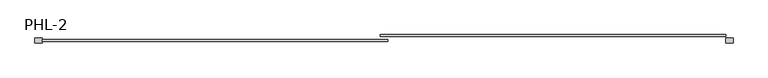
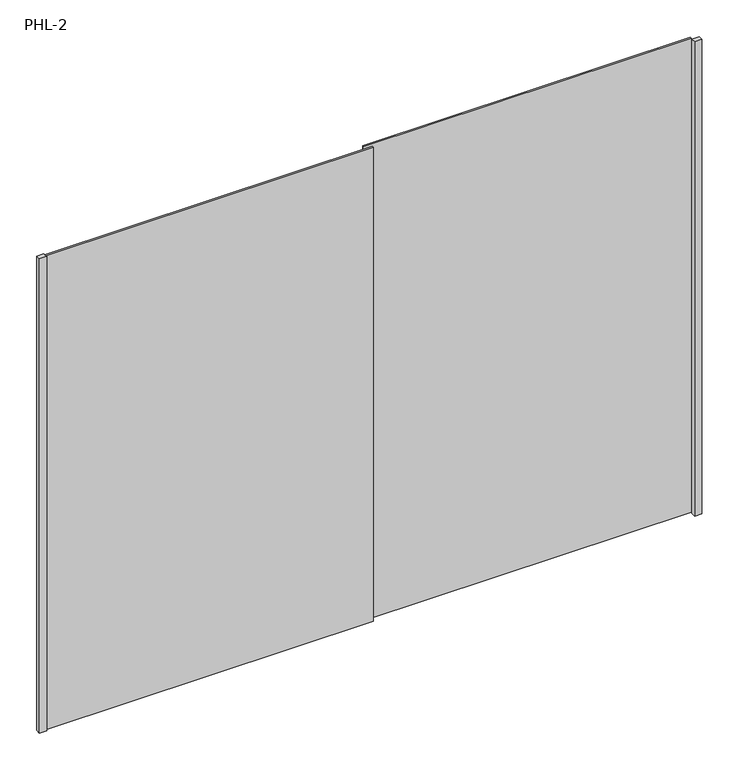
"""IFC4 building model written with IfcOpenShell, lengths in millimetres: furniture geometry, Puerta Closet corre 2 hojas : PHL-2."""

from ifc_helpers import new_model, si_unit, origin, origin_with_axes, place, context, project, spatial, polyline, outline, extrude, source, transform, mapped, element, save


def phl_2_ab682704(model_context):
    return source(origin(), model_context, "Body", "SweptSolid", [
        extrude(outline(polyline([(860.0, 80.0), (830.0, 80.0), (830.0, 100.0), (860.0, 100.0), (860.0, 80.0)])), origin_with_axes(), (0.0, 0.0, 1.0), 2120.0),
        extrude(outline(polyline([(830.0, 106.6666667), (-555.0, 106.6666667), (-555.0, 113.3333333), (830.0, 113.3333333), (830.0, 106.6666667)])), origin_with_axes(), (0.0, 0.0, 1.0), 2120.0),
        extrude(outline(polyline([(-525.0, 86.6666667), (-1910.0, 86.6666667), (-1910.0, 93.3333333), (-525.0, 93.3333333), (-525.0, 86.6666667)])), origin_with_axes(), (0.0, 0.0, 1.0), 2120.0),
        extrude(outline(polyline([(-1940.0, 80.0), (-1940.0, 100.0), (-1910.0, 100.0), (-1910.0, 80.0), (-1940.0, 80.0)])), origin_with_axes(), (0.0, 0.0, 1.0), 2120.0),
    ])


if __name__ == "__main__":
    model = new_model("IFC4")
    model_context = context("Model", 3, world=origin())
    ifc_project = project(units=[si_unit("LENGTHUNIT", "METRE", prefix="MILLI")], contexts=[model_context])
    site = spatial("IfcSite", under=ifc_project)
    building = spatial("IfcBuilding", under=site)
    placement = place(None, origin())
    phl_2_shape = phl_2_ab682704(model_context)
    element("IfcFurniture", 1, ObjectType="Puerta Closet corre 2 hojas : PHL-2", at=placement, inside=building, context=model_context, shape_type="MappedRepresentation", body=[
        mapped(phl_2_shape, transform((0.0, 0.0, 0.0), x_axis=(1.0, 0.0, 0.0), y_axis=(0.0, 1.0, 0.0), z_axis=(0.0, 0.0, 1.0))),
    ])
    save(model, "model.ifc")
